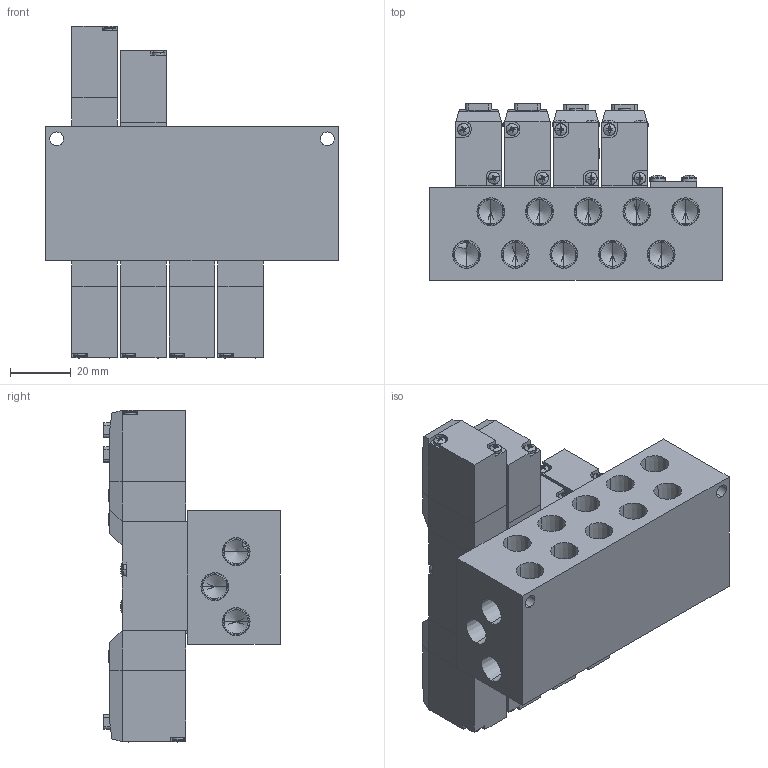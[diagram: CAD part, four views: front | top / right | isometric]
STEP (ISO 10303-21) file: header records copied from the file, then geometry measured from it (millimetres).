
FILE_DESCRIPTION (( 'STEP AP203' ), '1' );
FILE_NAME ('MFS#-PC5-01-U.STEP', '2016-02-04T03:27:40', ( 'Sam Lin' ), ( '' ), 'SwSTEP 2.0', 'SolidWorks 2013', '' );
FILE_SCHEMA (( 'CONFIG_CONTROL_DESIGN' ));
Length unit declared in the file: metre
Products named in the file (12): PC-MARK; PC5-6; PC5-4; ISO 7045 - M2 x 10; PC5-3-U; MFS-01; PC5-2; MFS-02; PC5-9-345-U; ISO 7045 - M2.5 x 25; MFS#-PC5-01-U; PC5-5
Assembly tree (56 placements, depth 2):
  MFS#-PC5-01-U
    MFS-01
    MFS-02
    ISO 7045 - M2.5 x 25  x10
    PC5-5  x6
    PC-MARK  x4
    PC5-6  x6
    PC5-4  x6
    ISO 7045 - M2 x 10  x16
    PC5-3-U  x3
    PC5-2  x2
    PC5-9-345-U
Bounding box: 96 x 58 x 109.14 mm (x, y, z)
Volume: 240032.8 mm3; surface area: 72231.2 mm2
Topology: 80 solids, 80 shells, 2078 faces, 5083 edges, 3151 vertices
Faces by surface type: plane 1152, cylinder 400, cone 338, bspline 188
Entity records: 15520 total; most frequent: CARTESIAN_POINT 2788, DIRECTION 2218, ORIENTED_EDGE 2038, EDGE_CURVE 1019, AXIS2_PLACEMENT_3D 820, VERTEX_POINT 660, VECTOR 578, LINE 578
